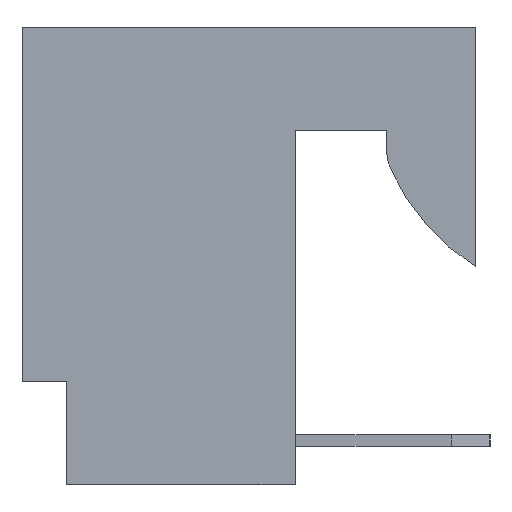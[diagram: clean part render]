
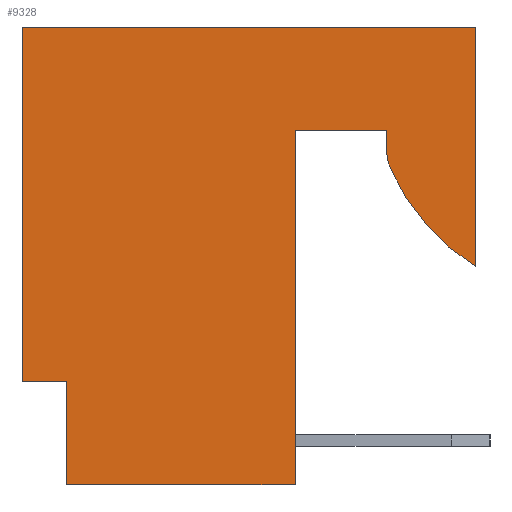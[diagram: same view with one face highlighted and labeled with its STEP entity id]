
A CAD part, left-side view. The second image highlights one B-rep face of the part: STEP entity #9328.
In plain terms, the highlighted planar face has unit normal (-1, 0, 0).
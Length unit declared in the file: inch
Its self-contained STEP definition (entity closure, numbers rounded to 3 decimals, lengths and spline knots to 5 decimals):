
#1=DIRECTION('',(0.,0.,-1.));
#2=VECTOR('',#1,0.16208);
#3=CARTESIAN_POINT('',(-0.648,0.,0.));
#4=LINE('',#3,#2);
#5=CARTESIAN_POINT('',(-0.648,-0.0797,-0.035));
#6=DIRECTION('',(1.,0.,0.));
#7=DIRECTION('',(0.,0.531,-0.847));
#8=AXIS2_PLACEMENT_3D('',#5,#6,#7);
#10=CARTESIAN_POINT('',(-0.648,0.03,-0.08365));
#11=DIRECTION('',(1.,0.,0.));
#12=DIRECTION('',(0.,0.914,-0.405));
#13=AXIS2_PLACEMENT_3D('',#10,#11,#12);
#15=DIRECTION('',(0.,0.,1.));
#16=VECTOR('',#15,0.01365);
#17=CARTESIAN_POINT('',(-0.648,0.06,-0.08365));
#18=LINE('',#17,#16);
#19=DIRECTION('',(0.,1.,0.));
#20=VECTOR('',#19,0.062);
#21=CARTESIAN_POINT('',(-0.648,0.06,-0.07));
#22=LINE('',#21,#20);
#23=DIRECTION('',(0.,0.,-1.));
#24=VECTOR('',#23,0.24);
#25=CARTESIAN_POINT('',(-0.648,0.122,-0.07));
#26=LINE('',#25,#24);
#27=DIRECTION('',(0.,1.,0.));
#28=VECTOR('',#27,0.155);
#29=CARTESIAN_POINT('',(-0.648,0.122,-0.31));
#30=LINE('',#29,#28);
#31=DIRECTION('',(0.,0.,1.));
#32=VECTOR('',#31,0.07);
#33=CARTESIAN_POINT('',(-0.648,0.277,-0.31));
#34=LINE('',#33,#32);
#35=DIRECTION('',(0.,1.,0.));
#36=VECTOR('',#35,0.03);
#37=CARTESIAN_POINT('',(-0.648,0.277,-0.24));
#38=LINE('',#37,#36);
#39=DIRECTION('',(0.,0.,1.));
#40=VECTOR('',#39,0.24);
#41=CARTESIAN_POINT('',(-0.648,0.307,-0.24));
#42=LINE('',#41,#40);
#43=DIRECTION('',(0.,-1.,0.));
#44=VECTOR('',#43,0.307);
#45=CARTESIAN_POINT('',(-0.648,0.307,0.));
#46=LINE('',#45,#44);
#7075=CARTESIAN_POINT('',(-0.648,0.,0.));
#7076=CARTESIAN_POINT('',(-0.648,0.,-0.16208));
#7077=VERTEX_POINT('',#7075);
#7078=VERTEX_POINT('',#7076);
#7079=CARTESIAN_POINT('',(-0.648,0.06,-0.07));
#7080=CARTESIAN_POINT('',(-0.648,0.122,-0.07));
#7081=VERTEX_POINT('',#7079);
#7082=VERTEX_POINT('',#7080);
#7083=CARTESIAN_POINT('',(-0.648,0.122,-0.31));
#7084=VERTEX_POINT('',#7083);
#7085=CARTESIAN_POINT('',(-0.648,0.277,-0.31));
#7086=VERTEX_POINT('',#7085);
#7087=CARTESIAN_POINT('',(-0.648,0.277,-0.24));
#7088=VERTEX_POINT('',#7087);
#7089=CARTESIAN_POINT('',(-0.648,0.307,-0.24));
#7090=VERTEX_POINT('',#7089);
#7091=CARTESIAN_POINT('',(-0.648,0.307,0.));
#7092=VERTEX_POINT('',#7091);
#7275=CARTESIAN_POINT('',(-0.648,0.05742,-0.09581));
#7276=VERTEX_POINT('',#7275);
#7277=CARTESIAN_POINT('',(-0.648,0.06,-0.08365));
#7278=VERTEX_POINT('',#7277);
#9299=CARTESIAN_POINT('',(-0.648,0.,0.));
#9300=DIRECTION('',(1.,0.,0.));
#9301=DIRECTION('',(0.,0.,-1.));
#9302=AXIS2_PLACEMENT_3D('',#9299,#9300,#9301);
#9303=PLANE('',#9302);
#9305=ORIENTED_EDGE('',*,*,#9304,.T.);
#9307=ORIENTED_EDGE('',*,*,#9306,.T.);
#9309=ORIENTED_EDGE('',*,*,#9308,.T.);
#9311=ORIENTED_EDGE('',*,*,#9310,.T.);
#9313=ORIENTED_EDGE('',*,*,#9312,.T.);
#9315=ORIENTED_EDGE('',*,*,#9314,.T.);
#9317=ORIENTED_EDGE('',*,*,#9316,.T.);
#9319=ORIENTED_EDGE('',*,*,#9318,.T.);
#9321=ORIENTED_EDGE('',*,*,#9320,.T.);
#9323=ORIENTED_EDGE('',*,*,#9322,.T.);
#9325=ORIENTED_EDGE('',*,*,#9324,.T.);
#9326=EDGE_LOOP('',(#9305,#9307,#9309,#9311,#9313,#9315,#9317,#9319,#9321,#9323,
#9325));
#9327=FACE_OUTER_BOUND('',#9326,.F.);
#9328=ADVANCED_FACE('',(#9327),#9303,.F.);
#9=CIRCLE('',#8,0.15);
#14=CIRCLE('',#13,0.03);
#9304=EDGE_CURVE('',#7077,#7078,#4,.T.);
#9306=EDGE_CURVE('',#7078,#7276,#9,.T.);
#9308=EDGE_CURVE('',#7276,#7278,#14,.T.);
#9310=EDGE_CURVE('',#7278,#7081,#18,.T.);
#9312=EDGE_CURVE('',#7081,#7082,#22,.T.);
#9314=EDGE_CURVE('',#7082,#7084,#26,.T.);
#9316=EDGE_CURVE('',#7084,#7086,#30,.T.);
#9318=EDGE_CURVE('',#7086,#7088,#34,.T.);
#9320=EDGE_CURVE('',#7088,#7090,#38,.T.);
#9322=EDGE_CURVE('',#7090,#7092,#42,.T.);
#9324=EDGE_CURVE('',#7092,#7077,#46,.T.);
